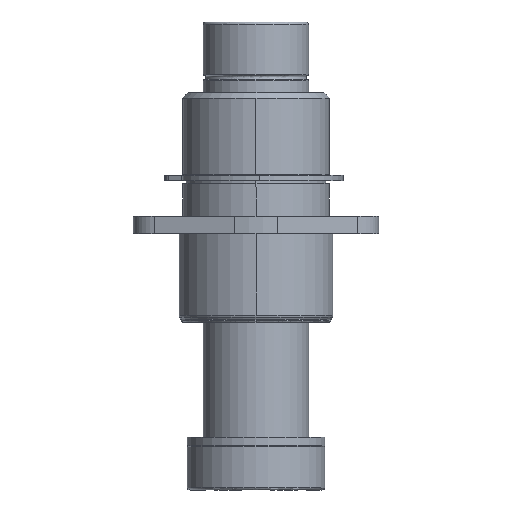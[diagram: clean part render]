
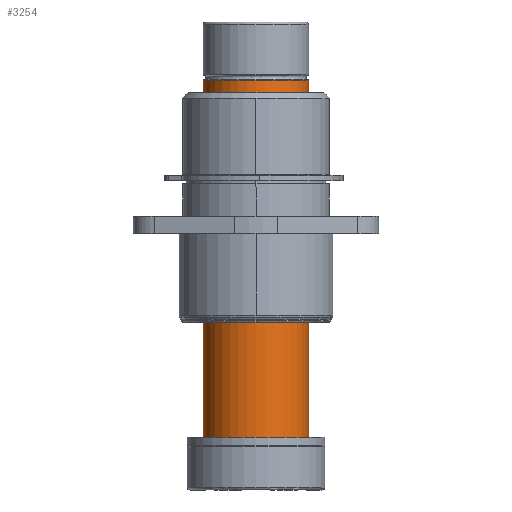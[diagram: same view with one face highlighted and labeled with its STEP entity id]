
A CAD part, front view. The second image highlights one B-rep face of the part: STEP entity #3254.
In plain terms, the highlighted cylindrical face has radius 19.028 mm (diameter 38.057 mm), a partial arc.
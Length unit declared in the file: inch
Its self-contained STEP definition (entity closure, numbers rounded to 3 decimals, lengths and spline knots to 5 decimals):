
#120 = EDGE_CURVE ( 'NONE', #3038, #286, #3432, .T. ) ;
#156 = CARTESIAN_POINT ( 'NONE',  ( 0.74915, 0., -6.455 ) ) ;
#286 = VERTEX_POINT ( 'NONE', #2813 ) ;
#369 = EDGE_CURVE ( 'NONE', #3038, #1030, #1288, .T. ) ;
#510 = DIRECTION ( 'NONE',  ( 1., 0., 0. ) ) ;
#528 = DIRECTION ( 'NONE',  ( 0., 0., 1. ) ) ;
#542 = DIRECTION ( 'NONE',  ( 0., 0., 1. ) ) ;
#634 = AXIS2_PLACEMENT_3D ( 'NONE', #3691, #2258, #1566 ) ;
#870 = DIRECTION ( 'NONE',  ( 0., 0., 1. ) ) ;
#980 = CARTESIAN_POINT ( 'NONE',  ( -0.74915, 0., -0.82499 ) ) ;
#1030 = VERTEX_POINT ( 'NONE', #980 ) ;
#1034 = DIRECTION ( 'NONE',  ( 0., 0., 1. ) ) ;
#1236 = CIRCLE ( 'NONE', #634, 0.74915 ) ;
#1288 = LINE ( 'NONE', #3582, #1502 ) ;
#1366 = EDGE_CURVE ( 'NONE', #3563, #1030, #1236, .T. ) ;
#1446 = CARTESIAN_POINT ( 'NONE',  ( 0.74915, 0., -0.82499 ) ) ;
#1502 = VECTOR ( 'NONE', #1034, 39.37008 ) ;
#1566 = DIRECTION ( 'NONE',  ( 1., 0., 0. ) ) ;
#1712 = AXIS2_PLACEMENT_3D ( 'NONE', #3794, #542, #4216 ) ;
#1823 = ORIENTED_EDGE ( 'NONE', *, *, #3154, .T. ) ;
#2078 = ORIENTED_EDGE ( 'NONE', *, *, #120, .T. ) ;
#2258 = DIRECTION ( 'NONE',  ( 0., 0., -1. ) ) ;
#2333 = VECTOR ( 'NONE', #870, 39.37008 ) ;
#2485 = ORIENTED_EDGE ( 'NONE', *, *, #1366, .T. ) ;
#2680 = CYLINDRICAL_SURFACE ( 'NONE', #4066, 0.74915 ) ;
#2813 = CARTESIAN_POINT ( 'NONE',  ( 0.74915, 0., -6. ) ) ;
#3038 = VERTEX_POINT ( 'NONE', #3418 ) ;
#3154 = EDGE_CURVE ( 'NONE', #286, #3563, #3799, .T. ) ;
#3254 = ADVANCED_FACE ( 'NONE', ( #4140 ), #2680, .T. ) ;
#3418 = CARTESIAN_POINT ( 'NONE',  ( -0.74915, 0., -6. ) ) ;
#3432 = CIRCLE ( 'NONE', #1712, 0.74915 ) ;
#3563 = VERTEX_POINT ( 'NONE', #1446 ) ;
#3582 = CARTESIAN_POINT ( 'NONE',  ( -0.74915, 0., -6.455 ) ) ;
#3691 = CARTESIAN_POINT ( 'NONE',  ( 0., 0., -0.82499 ) ) ;
#3794 = CARTESIAN_POINT ( 'NONE',  ( 0., 0., -6. ) ) ;
#3799 = LINE ( 'NONE', #156, #2333 ) ;
#4066 = AXIS2_PLACEMENT_3D ( 'NONE', #4198, #528, #510 ) ;
#4140 = FACE_OUTER_BOUND ( 'NONE', #4614, .T. ) ;
#4198 = CARTESIAN_POINT ( 'NONE',  ( 0., 0., -6.455 ) ) ;
#4216 = DIRECTION ( 'NONE',  ( 1., 0., 0. ) ) ;
#4614 = EDGE_LOOP ( 'NONE', ( #4706, #2078, #1823, #2485 ) ) ;
#4706 = ORIENTED_EDGE ( 'NONE', *, *, #369, .F. ) ;
